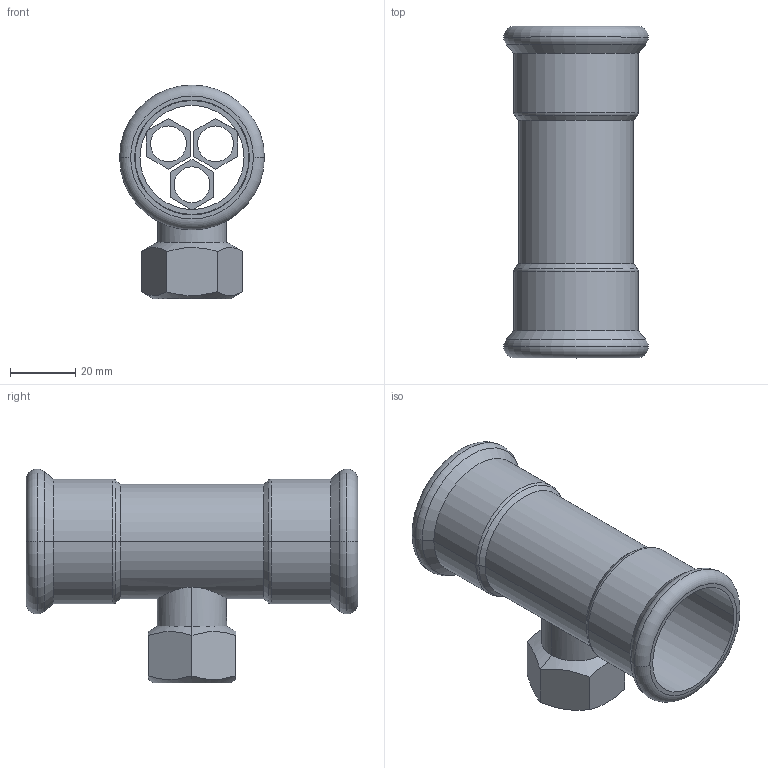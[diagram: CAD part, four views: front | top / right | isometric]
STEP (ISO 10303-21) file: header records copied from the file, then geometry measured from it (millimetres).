
FILE_DESCRIPTION(('OneSpaceDesigner STEP Export'),'2;1');
FILE_NAME('R2718 35xRp1-2x35.stp','2010-06-10T10:05:00',(''),(''),'OneSpace Designer STEP processor for AP214 (Solid Model)','OneSpace Modeling 15.00A 14-Mar-2007 (C) CoCreate Software GmbH','');
FILE_SCHEMA(('AUTOMOTIVE_DESIGN { 1 0 10303 214 1 1 1 1 }'));
Length unit declared in the file: millimetre
Products named in the file (2): R2718_35xRp1-2x35
Assembly tree (1 placements, depth 2):
  R2718_35xRp1-2x35
    R2718_35xRp1-2x35
Bounding box: 44.55 x 102 x 65.78 mm (x, y, z)
Volume: 30036.7 mm3; surface area: 31179.5 mm2
Topology: 1 solids, 1 shells, 181 faces, 454 edges, 289 vertices
Faces by surface type: plane 93, cylinder 56, cone 20, torus 12
Entity records: 6752 total; most frequent: CARTESIAN_POINT 2738, ORIENTED_EDGE 908, DIRECTION 699, EDGE_CURVE 454, VERTEX_POINT 289, VECTOR 279, LINE 279, EDGE_LOOP 215
